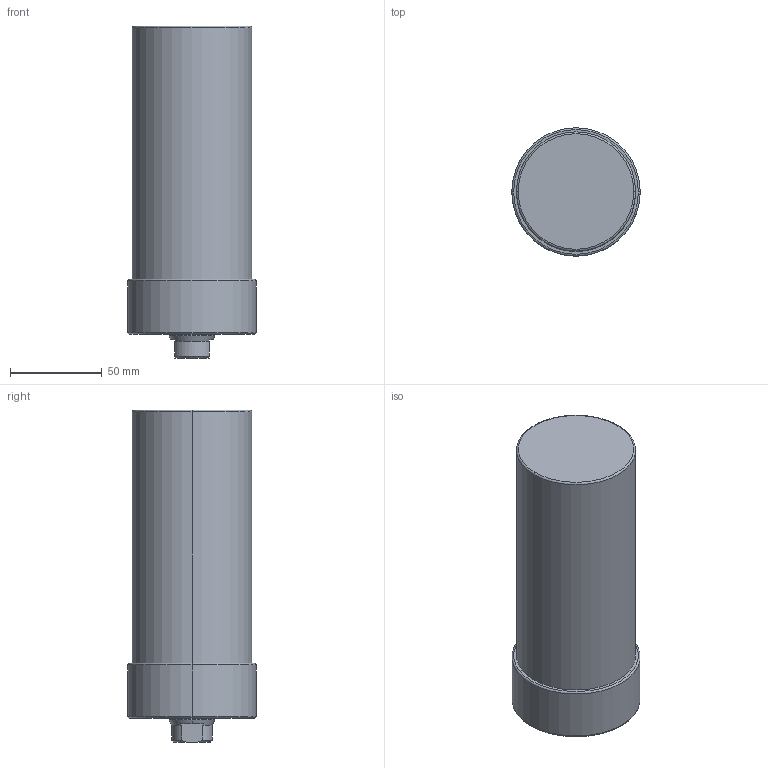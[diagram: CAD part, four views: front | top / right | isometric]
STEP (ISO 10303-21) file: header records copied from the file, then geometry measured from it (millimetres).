
FILE_DESCRIPTION (( 'STEP AP203' ), '1' );
FILE_NAME ('CLLU-065GA-105.STEP', '2020-01-07T00:10:52', ( '' ), ( '' ), 'SwSTEP 2.0', 'SolidWorks 2015', '' );
FILE_SCHEMA (( 'CONFIG_CONTROL_DESIGN' ));
Length unit declared in the file: millimetre
Products named in the file (1): CLLU-065GA-105
Bounding box: 70 x 70 x 181 mm (x, y, z)
Volume: 573814.3 mm3; surface area: 45204.7 mm2
Topology: 1 solids, 1 shells, 62 faces, 140 edges, 79 vertices
Faces by surface type: cone 24, cylinder 22, plane 10, torus 6
Entity records: 1751 total; most frequent: DIRECTION 320, CARTESIAN_POINT 300, ORIENTED_EDGE 260, AXIS2_PLACEMENT_3D 135, EDGE_CURVE 130, VERTEX_POINT 79, CIRCLE 72, EDGE_LOOP 71
